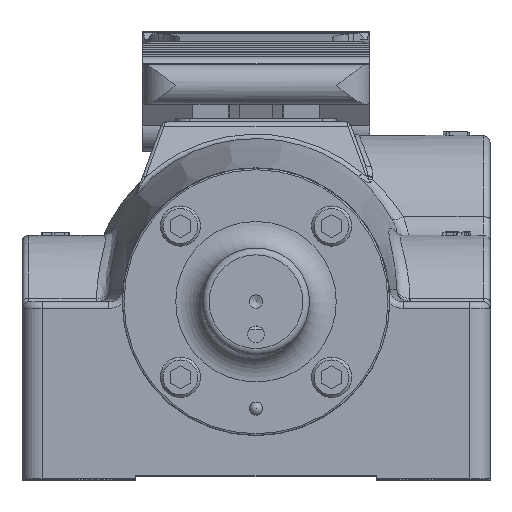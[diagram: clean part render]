
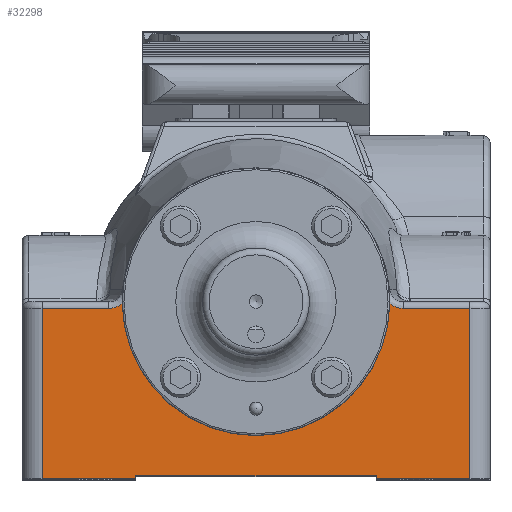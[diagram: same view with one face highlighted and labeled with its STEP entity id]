
A CAD part, top view. The second image highlights one B-rep face of the part: STEP entity #32298.
In plain terms, the highlighted planar face has unit normal (0, 0, 1).
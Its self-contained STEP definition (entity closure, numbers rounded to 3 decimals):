
#1003=B_SPLINE_CURVE_WITH_KNOTS('',3,(#58857,#58858,#58859,#58860,#58861),
 .UNSPECIFIED.,.F.,.F.,(4,1,4),(0.,0.291,0.347),
 .UNSPECIFIED.);
#1010=B_SPLINE_CURVE_WITH_KNOTS('',3,(#59039,#59040,#59041,#59042),
 .UNSPECIFIED.,.F.,.F.,(4,4),(0.356,0.703),
 .UNSPECIFIED.);
#4243=FACE_OUTER_BOUND('',#6473,.T.);
#6473=EDGE_LOOP('',(#25542,#25543,#25544,#25545,#25546,#25547,#25548,#25549,
#25550,#25551,#25552,#25553));
#8060=LINE('',#57585,#9729);
#8126=LINE('',#58623,#9795);
#8131=LINE('',#58636,#9800);
#8134=LINE('',#58640,#9803);
#8135=LINE('',#58642,#9804);
#8147=LINE('',#58694,#9816);
#8153=LINE('',#58751,#9822);
#8155=LINE('',#58925,#9824);
#8163=LINE('',#59161,#9832);
#9729=VECTOR('',#40673,2.223);
#9795=VECTOR('',#40925,5.715);
#9800=VECTOR('',#40938,2.223);
#9803=VECTOR('',#40943,0.079);
#9804=VECTOR('',#40946,0.079);
#9816=VECTOR('',#40986,4.048);
#9822=VECTOR('',#41064,1.583);
#9824=VECTOR('',#41072,1.583);
#9832=VECTOR('',#41168,4.048);
#11624=CIRCLE('',#34978,3.178);
#13744=VERTEX_POINT('',#57569);
#13750=VERTEX_POINT('',#57583);
#13807=VERTEX_POINT('',#58620);
#13808=VERTEX_POINT('',#58622);
#13810=VERTEX_POINT('',#58632);
#13812=VERTEX_POINT('',#58635);
#13829=VERTEX_POINT('',#58693);
#13843=VERTEX_POINT('',#58747);
#13847=VERTEX_POINT('',#58829);
#13852=VERTEX_POINT('',#58918);
#13855=VERTEX_POINT('',#58923);
#13877=VERTEX_POINT('',#59018);
#17407=EDGE_CURVE('',#13744,#13750,#8060,.T.);
#17532=EDGE_CURVE('',#13808,#13807,#8126,.T.);
#17538=EDGE_CURVE('',#13812,#13810,#8131,.T.);
#17541=EDGE_CURVE('',#13750,#13808,#8134,.T.);
#17542=EDGE_CURVE('',#13807,#13812,#8135,.T.);
#17564=EDGE_CURVE('',#13744,#13829,#8147,.T.);
#17593=EDGE_CURVE('',#13829,#13843,#8153,.T.);
#17598=EDGE_CURVE('',#13843,#13847,#1003,.T.);
#17607=EDGE_CURVE('',#13855,#13852,#8155,.T.);
#17643=EDGE_CURVE('',#13877,#13855,#1010,.T.);
#17654=EDGE_CURVE('',#13852,#13810,#8163,.T.);
#17712=EDGE_CURVE('',#13847,#13877,#11624,.T.);
#25542=ORIENTED_EDGE('',*,*,#17538,.T.);
#25543=ORIENTED_EDGE('',*,*,#17654,.F.);
#25544=ORIENTED_EDGE('',*,*,#17607,.F.);
#25545=ORIENTED_EDGE('',*,*,#17643,.F.);
#25546=ORIENTED_EDGE('',*,*,#17712,.F.);
#25547=ORIENTED_EDGE('',*,*,#17598,.F.);
#25548=ORIENTED_EDGE('',*,*,#17593,.F.);
#25549=ORIENTED_EDGE('',*,*,#17564,.F.);
#25550=ORIENTED_EDGE('',*,*,#17407,.T.);
#25551=ORIENTED_EDGE('',*,*,#17541,.T.);
#25552=ORIENTED_EDGE('',*,*,#17532,.T.);
#25553=ORIENTED_EDGE('',*,*,#17542,.T.);
#28891=PLANE('',#35108);
#32298=ADVANCED_FACE('',(#4243),#28891,.T.);
#34978=AXIS2_PLACEMENT_3D('',#59788,#41238,#41239);
#35108=AXIS2_PLACEMENT_3D('',#74551,#41710,#41711);
#40673=DIRECTION('',(1.,0.,0.));
#40925=DIRECTION('',(1.,0.,0.));
#40938=DIRECTION('',(1.,0.,0.));
#40943=DIRECTION('',(0.,1.,0.));
#40946=DIRECTION('',(0.,-1.,0.));
#40986=DIRECTION('',(0.,1.,0.));
#41064=DIRECTION('',(1.,0.,0.));
#41072=DIRECTION('',(1.,0.,0.));
#41168=DIRECTION('',(0.,-1.,0.));
#41238=DIRECTION('center_axis',(0.,0.,1.));
#41239=DIRECTION('ref_axis',(-1.,0.,0.));
#41710=DIRECTION('center_axis',(0.,0.,1.));
#41711=DIRECTION('ref_axis',(1.,0.,0.));
#57569=CARTESIAN_POINT('',(-5.08,-4.207,8.652));
#57583=CARTESIAN_POINT('',(-2.858,-4.207,8.652));
#57585=CARTESIAN_POINT('',(0.,-4.207,8.652));
#58620=CARTESIAN_POINT('',(2.858,-4.128,8.652));
#58622=CARTESIAN_POINT('',(-2.858,-4.128,8.652));
#58623=CARTESIAN_POINT('',(0.,-4.128,8.652));
#58632=CARTESIAN_POINT('',(5.08,-4.207,8.652));
#58635=CARTESIAN_POINT('',(2.858,-4.207,8.652));
#58636=CARTESIAN_POINT('',(0.,-4.207,8.652));
#58640=CARTESIAN_POINT('',(-2.858,-4.247,8.652));
#58642=CARTESIAN_POINT('',(2.858,-4.247,8.652));
#58693=CARTESIAN_POINT('',(-5.08,-0.159,8.652));
#58694=CARTESIAN_POINT('',(-5.08,-3.215,8.652));
#58747=CARTESIAN_POINT('',(-3.497,-0.159,8.652));
#58751=CARTESIAN_POINT('',(0.,-0.159,8.652));
#58829=CARTESIAN_POINT('',(-3.177,-0.037,8.652));
#58857=CARTESIAN_POINT('Ctrl Pts',(-3.497,-0.159,
8.652));
#58858=CARTESIAN_POINT('Ctrl Pts',(-3.4,-0.159,
8.652));
#58859=CARTESIAN_POINT('Ctrl Pts',(-3.283,-0.122,
8.652));
#58860=CARTESIAN_POINT('Ctrl Pts',(-3.192,-0.05,
8.652));
#58861=CARTESIAN_POINT('Ctrl Pts',(-3.178,-0.037,
8.652));
#58918=CARTESIAN_POINT('',(5.08,-0.159,8.652));
#58923=CARTESIAN_POINT('',(3.497,-0.159,8.652));
#58925=CARTESIAN_POINT('',(0.,-0.159,8.652));
#59018=CARTESIAN_POINT('',(3.177,-0.037,8.652));
#59039=CARTESIAN_POINT('Ctrl Pts',(3.178,-0.037,
8.652));
#59040=CARTESIAN_POINT('Ctrl Pts',(3.265,-0.114,
8.652));
#59041=CARTESIAN_POINT('Ctrl Pts',(3.381,-0.159,
8.652));
#59042=CARTESIAN_POINT('Ctrl Pts',(3.497,-0.159,
8.652));
#59161=CARTESIAN_POINT('',(5.08,-3.215,8.652));
#59788=CARTESIAN_POINT('Origin',(0.,0.,8.652));
#74551=CARTESIAN_POINT('Origin',(0.,-4.286,8.652));
